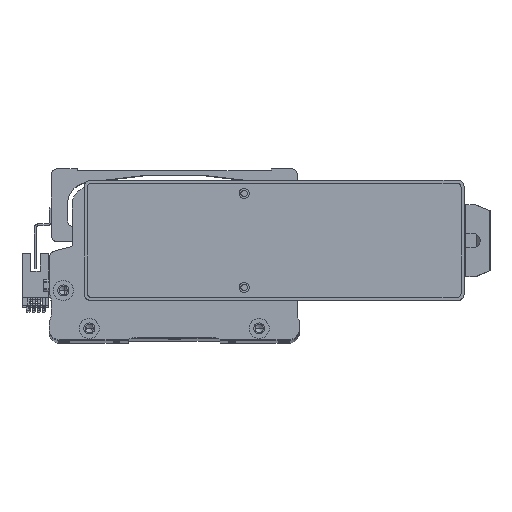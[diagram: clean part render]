
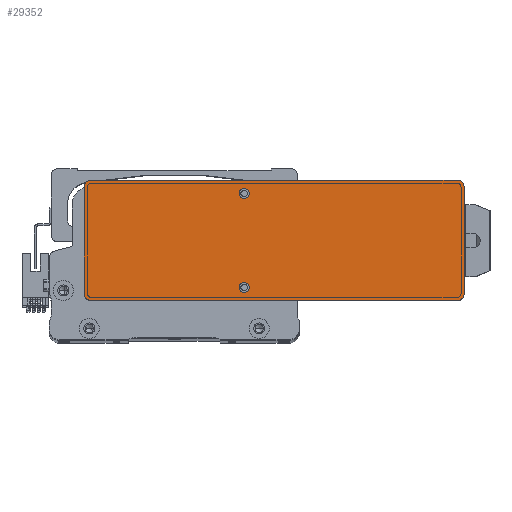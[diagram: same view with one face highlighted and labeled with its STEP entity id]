
A CAD part, top view. The second image highlights one B-rep face of the part: STEP entity #29352.
In plain terms, the highlighted planar face has unit normal (0, 0, 1) as drawn and (0, 0, -1) by its records, which use the part's own axes.
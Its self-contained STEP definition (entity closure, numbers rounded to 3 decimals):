
#347 = DIRECTION ( 'NONE',  ( 0., 0., -1. ) ) ;
#1019 = CARTESIAN_POINT ( 'NONE',  ( -95., -30., 0. ) ) ;
#2315 = EDGE_CURVE ( 'NONE', #8462, #59338, #76752, .T. ) ;
#3462 = AXIS2_PLACEMENT_3D ( 'NONE', #16953, #60247, #23144 ) ;
#4220 = DIRECTION ( 'NONE',  ( -1., 0., 0. ) ) ;
#4407 = DIRECTION ( 'NONE',  ( 0., 0., -1. ) ) ;
#5346 = VERTEX_POINT ( 'NONE', #65048 ) ;
#6236 = VERTEX_POINT ( 'NONE', #65101 ) ;
#6970 = CARTESIAN_POINT ( 'NONE',  ( 92., 30., 0. ) ) ;
#8462 = VERTEX_POINT ( 'NONE', #65347 ) ;
#8727 = VERTEX_POINT ( 'NONE', #53838 ) ;
#9443 = PLANE ( 'NONE',  #43327 ) ;
#9531 = CARTESIAN_POINT ( 'NONE',  ( -17.5, -23.5, 0. ) ) ;
#11969 = CIRCLE ( 'NONE', #47725, 2.5 ) ;
#12795 = CIRCLE ( 'NONE', #46633, 2.5 ) ;
#13004 = VECTOR ( 'NONE', #75674, 1000. ) ;
#13141 = ORIENTED_EDGE ( 'NONE', *, *, #52325, .F. ) ;
#13238 = DIRECTION ( 'NONE',  ( 0., -1., 0. ) ) ;
#14499 = AXIS2_PLACEMENT_3D ( 'NONE', #78198, #41220, #4220 ) ;
#14560 = VECTOR ( 'NONE', #33958, 1000. ) ;
#16915 = LINE ( 'NONE', #33287, #66231 ) ;
#16953 = CARTESIAN_POINT ( 'NONE',  ( 92., -27., 0. ) ) ;
#21252 = ORIENTED_EDGE ( 'NONE', *, *, #78705, .F. ) ;
#21298 = DIRECTION ( 'NONE',  ( 0., 0., -1. ) ) ;
#21502 = DIRECTION ( 'NONE',  ( 0., 0., -1. ) ) ;
#22411 = CIRCLE ( 'NONE', #73401, 3. ) ;
#22953 = ORIENTED_EDGE ( 'NONE', *, *, #51824, .F. ) ;
#23144 = DIRECTION ( 'NONE',  ( 1., 0., 0. ) ) ;
#24852 = EDGE_CURVE ( 'NONE', #6236, #75328, #27321, .T. ) ;
#25048 = EDGE_LOOP ( 'NONE', ( #69003, #40147, #29841, #48227, #42995, #28678, #50392, #46834 ) ) ;
#27321 = CIRCLE ( 'NONE', #67846, 3. ) ;
#28244 = CIRCLE ( 'NONE', #71576, 3. ) ;
#28667 = CARTESIAN_POINT ( 'NONE',  ( -17.5, 23.5, 0. ) ) ;
#28678 = ORIENTED_EDGE ( 'NONE', *, *, #43377, .T. ) ;
#29200 = EDGE_CURVE ( 'NONE', #59879, #75328, #58959, .T. ) ;
#29352 = ADVANCED_FACE ( 'NONE', ( #52104, #35639, #54046 ), #9443, .F. ) ;
#29841 = ORIENTED_EDGE ( 'NONE', *, *, #73225, .F. ) ;
#30601 = EDGE_CURVE ( 'NONE', #34477, #66896, #66431, .T. ) ;
#31216 = CARTESIAN_POINT ( 'NONE',  ( 95., 27., 0. ) ) ;
#32191 = CARTESIAN_POINT ( 'NONE',  ( -92., 27., 0. ) ) ;
#32688 = EDGE_CURVE ( 'NONE', #60514, #8727, #47413, .T. ) ;
#33287 = CARTESIAN_POINT ( 'NONE',  ( 95., -30., 0. ) ) ;
#33958 = DIRECTION ( 'NONE',  ( -1., 0., 0. ) ) ;
#34477 = VERTEX_POINT ( 'NONE', #77192 ) ;
#34502 = DIRECTION ( 'NONE',  ( 1., 0., 0. ) ) ;
#35639 = FACE_OUTER_BOUND ( 'NONE', #25048, .T. ) ;
#35781 = AXIS2_PLACEMENT_3D ( 'NONE', #37384, #347, #43611 ) ;
#35977 = DIRECTION ( 'NONE',  ( 0., 0., -1. ) ) ;
#37384 = CARTESIAN_POINT ( 'NONE',  ( -15., 23.5, 0. ) ) ;
#37576 = CARTESIAN_POINT ( 'NONE',  ( -95., -27., 0. ) ) ;
#38096 = CIRCLE ( 'NONE', #3462, 3. ) ;
#38417 = DIRECTION ( 'NONE',  ( 1., 0., 0. ) ) ;
#38698 = CARTESIAN_POINT ( 'NONE',  ( 95., -30., 0. ) ) ;
#39216 = ORIENTED_EDGE ( 'NONE', *, *, #30601, .F. ) ;
#40147 = ORIENTED_EDGE ( 'NONE', *, *, #42501, .T. ) ;
#41220 = DIRECTION ( 'NONE',  ( 0., 0., -1. ) ) ;
#41421 = CARTESIAN_POINT ( 'NONE',  ( 92., 27., 0. ) ) ;
#41951 = CARTESIAN_POINT ( 'NONE',  ( -12.5, 23.5, 0. ) ) ;
#42501 = EDGE_CURVE ( 'NONE', #8462, #5346, #38096, .T. ) ;
#42995 = ORIENTED_EDGE ( 'NONE', *, *, #29200, .F. ) ;
#43327 = AXIS2_PLACEMENT_3D ( 'NONE', #65313, #71509, #34502 ) ;
#43377 = EDGE_CURVE ( 'NONE', #59879, #8727, #22411, .T. ) ;
#43611 = DIRECTION ( 'NONE',  ( -1., 0., 0. ) ) ;
#46633 = AXIS2_PLACEMENT_3D ( 'NONE', #72966, #35977, #79156 ) ;
#46834 = ORIENTED_EDGE ( 'NONE', *, *, #46901, .T. ) ;
#46901 = EDGE_CURVE ( 'NONE', #60514, #59338, #28244, .T. ) ;
#47413 = LINE ( 'NONE', #64783, #14560 ) ;
#47658 = DIRECTION ( 'NONE',  ( 1., 0., 0. ) ) ;
#47725 = AXIS2_PLACEMENT_3D ( 'NONE', #58376, #21298, #64542 ) ;
#48227 = ORIENTED_EDGE ( 'NONE', *, *, #24852, .T. ) ;
#50392 = ORIENTED_EDGE ( 'NONE', *, *, #32688, .F. ) ;
#51824 = EDGE_CURVE ( 'NONE', #63818, #61378, #72001, .T. ) ;
#52104 = FACE_BOUND ( 'NONE', #63940, .T. ) ;
#52325 = EDGE_CURVE ( 'NONE', #61378, #63818, #11969, .T. ) ;
#52405 = EDGE_LOOP ( 'NONE', ( #21252, #39216 ) ) ;
#53838 = CARTESIAN_POINT ( 'NONE',  ( -92., 30., 0. ) ) ;
#54046 = FACE_BOUND ( 'NONE', #52405, .T. ) ;
#56994 = VECTOR ( 'NONE', #13238, 1000. ) ;
#58376 = CARTESIAN_POINT ( 'NONE',  ( -15., 23.5, 0. ) ) ;
#58601 = CARTESIAN_POINT ( 'NONE',  ( -92., -27., 0. ) ) ;
#58959 = LINE ( 'NONE', #1019, #56994 ) ;
#59338 = VERTEX_POINT ( 'NONE', #31216 ) ;
#59879 = VERTEX_POINT ( 'NONE', #79428 ) ;
#60247 = DIRECTION ( 'NONE',  ( 0., 0., -1. ) ) ;
#60514 = VERTEX_POINT ( 'NONE', #6970 ) ;
#61378 = VERTEX_POINT ( 'NONE', #41951 ) ;
#63818 = VERTEX_POINT ( 'NONE', #28667 ) ;
#63940 = EDGE_LOOP ( 'NONE', ( #22953, #13141 ) ) ;
#64542 = DIRECTION ( 'NONE',  ( -1., 0., 0. ) ) ;
#64766 = DIRECTION ( 'NONE',  ( 1., 0., 0. ) ) ;
#64783 = CARTESIAN_POINT ( 'NONE',  ( 95., 30., 0. ) ) ;
#65048 = CARTESIAN_POINT ( 'NONE',  ( 92., -30., 0. ) ) ;
#65101 = CARTESIAN_POINT ( 'NONE',  ( -92., -30., 0. ) ) ;
#65313 = CARTESIAN_POINT ( 'NONE',  ( 0., 0., 0. ) ) ;
#65347 = CARTESIAN_POINT ( 'NONE',  ( 95., -27., 0. ) ) ;
#66231 = VECTOR ( 'NONE', #76502, 1000. ) ;
#66431 = CIRCLE ( 'NONE', #14499, 2.5 ) ;
#66896 = VERTEX_POINT ( 'NONE', #9531 ) ;
#67846 = AXIS2_PLACEMENT_3D ( 'NONE', #58601, #21502, #64766 ) ;
#69003 = ORIENTED_EDGE ( 'NONE', *, *, #2315, .F. ) ;
#71509 = DIRECTION ( 'NONE',  ( 0., 0., 1. ) ) ;
#71576 = AXIS2_PLACEMENT_3D ( 'NONE', #41421, #4407, #47658 ) ;
#72001 = CIRCLE ( 'NONE', #35781, 2.5 ) ;
#72966 = CARTESIAN_POINT ( 'NONE',  ( -15., -23.5, 0. ) ) ;
#73225 = EDGE_CURVE ( 'NONE', #6236, #5346, #16915, .T. ) ;
#73401 = AXIS2_PLACEMENT_3D ( 'NONE', #32191, #75410, #38417 ) ;
#75328 = VERTEX_POINT ( 'NONE', #37576 ) ;
#75410 = DIRECTION ( 'NONE',  ( 0., 0., -1. ) ) ;
#75674 = DIRECTION ( 'NONE',  ( 0., 1., 0. ) ) ;
#76502 = DIRECTION ( 'NONE',  ( 1., 0., 0. ) ) ;
#76752 = LINE ( 'NONE', #38698, #13004 ) ;
#77192 = CARTESIAN_POINT ( 'NONE',  ( -12.5, -23.5, 0. ) ) ;
#78198 = CARTESIAN_POINT ( 'NONE',  ( -15., -23.5, 0. ) ) ;
#78705 = EDGE_CURVE ( 'NONE', #66896, #34477, #12795, .T. ) ;
#79156 = DIRECTION ( 'NONE',  ( -1., 0., 0. ) ) ;
#79428 = CARTESIAN_POINT ( 'NONE',  ( -95., 27., 0. ) ) ;
